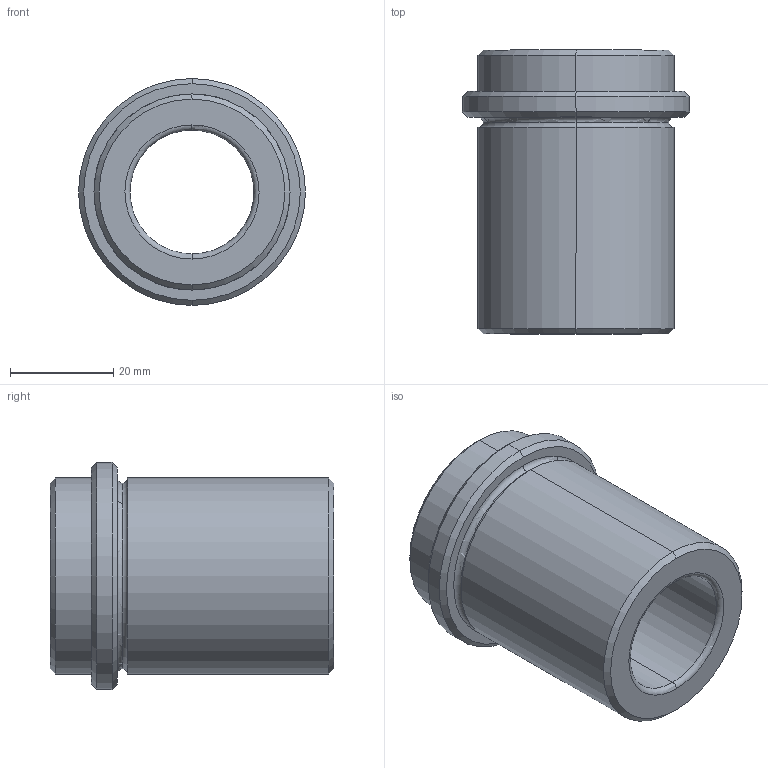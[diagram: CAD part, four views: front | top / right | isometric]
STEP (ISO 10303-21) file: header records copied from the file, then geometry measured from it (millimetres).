
FILE_DESCRIPTION(('CATIA V5 STEP Exchange'),'2;1');
FILE_NAME('C:\Users\Utente\Desktop\IO LAVORO\3D X SITO CF\X SITO\CF 439\CF 439 24x55.stp','2020-12-27T21:01:54+00:00',('none'),('none'),'CATIA Version 5 Release 20 GA (IN-10)','CATIA V5 STEP AP203','none');
FILE_SCHEMA(('CONFIG_CONTROL_DESIGN'));
Length unit declared in the file: millimetre
Products named in the file (1): CF 439 24x55
Bounding box: 44 x 55 x 44 mm (x, y, z)
Volume: 38957.3 mm3; surface area: 12696.2 mm2
Topology: 1 solids, 1 shells, 28 faces, 86 edges, 62 vertices
Faces by surface type: cone 8, cylinder 8, torus 8, plane 4
Entity records: 1104 total; most frequent: CARTESIAN_POINT 289, ORIENTED_EDGE 172, DIRECTION 134, AXIS2_PLACEMENT_3D 91, EDGE_CURVE 86, CIRCLE 62, VERTEX_POINT 62, EDGE_LOOP 32
